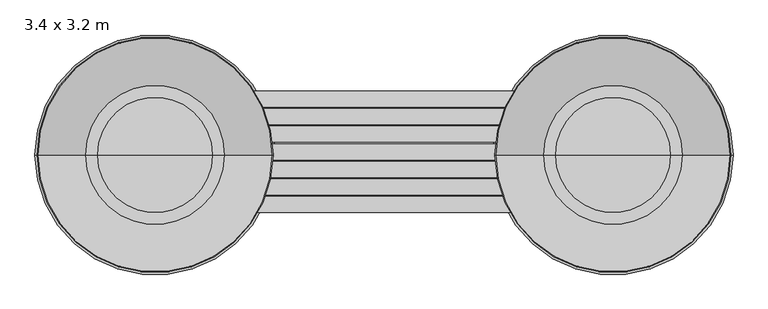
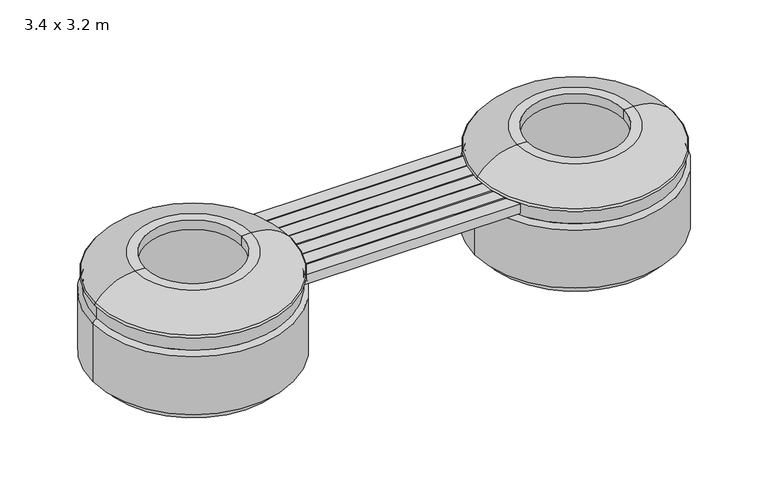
"""IFC4 building model written with IfcOpenShell, lengths in millimetres: geographic element geometry, Puesto de flores con banco - 2 piezas : 3.4 x 3.2 m."""

from ifc_helpers import new_model, si_unit, point, frame, frame_2d, origin, place, context, project, spatial, polyline, circle_curve, ellipse_curve, trimmed, segment, composite_curve, outline, extrude, source, transform, mapped, element, save
from ifc_brep_helpers import plane_surface, cylinder_surface, revolved_surface, advanced_brep


def geographic_element_3_4_x_3_2_m_97ed3e57(model_context):
    return source(origin(), model_context, "Body", "SolidModel", [
        extrude(outline(composite_curve([segment(polyline([(604.8352385, -201.2975588), (-604.8352385, -201.2975588)]), True, "CONTINUOUS"), segment(trimmed(circle_curve(frame_2d((-1143.448544, 0.0)), 575.0), [point((-604.8352385, -201.2975588))], [point((-581.388136, -121.2975588))], True, "CARTESIAN"), True, "CONTINUOUS"), segment(polyline([(-581.388136, -121.2975588), (581.388136, -121.2975588)]), True, "CONTINUOUS"), segment(trimmed(circle_curve(frame_2d((1143.448544, 0.0)), 575.0), [point((581.388136, -121.2975588))], [point((604.8352385, -201.2975588))], True, "CARTESIAN"), True, "CONTINUOUS")], self_intersect=False)), frame((0.0, 0.0, 463.492112), z_axis=(0.0, 0.0, 1.0), x_axis=(1.0, 0.0, 0.0)), (0.0, 0.0, 1.0), 60.0),
        extrude(outline(composite_curve([segment(polyline([(579.7210716, -113.2975588), (-579.7210716, -113.2975588)]), True, "CONTINUOUS"), segment(trimmed(circle_curve(frame_2d((-1143.448544, 0.0)), 575.0), [point((-579.7210716, -113.2975588))], [point((-569.4134644, -33.2975588))], True, "CARTESIAN"), True, "CONTINUOUS"), segment(polyline([(-569.4134644, -33.2975588), (569.4134644, -33.2975588)]), True, "CONTINUOUS"), segment(trimmed(circle_curve(frame_2d((1143.448544, 0.0)), 575.0), [point((569.4134644, -33.2975588))], [point((579.7210716, -113.2975588))], True, "CARTESIAN"), True, "CONTINUOUS")], self_intersect=False)), frame((0.0, 0.0, 463.492112), z_axis=(0.0, 0.0, 1.0), x_axis=(1.0, 0.0, 0.0)), (0.0, 0.0, 1.0), 60.0),
        extrude(outline(composite_curve([segment(polyline([(569.0053061, -25.2975588), (-569.0053061, -25.2975588)]), True, "CONTINUOUS"), segment(trimmed(circle_curve(frame_2d((-1143.448544, 0.0)), 575.0), [point((-569.0053061, -25.2975588))], [point((-571.0565079, 54.7024412))], True, "CARTESIAN"), True, "CONTINUOUS"), segment(polyline([(-571.0565079, 54.7024412), (571.0565079, 54.7024412)]), True, "CONTINUOUS"), segment(trimmed(circle_curve(frame_2d((1143.448544, 0.0)), 575.0), [point((571.0565079, 54.7024412))], [point((569.0053061, -25.2975588))], True, "CARTESIAN"), True, "CONTINUOUS")], self_intersect=False)), frame((0.0, 0.0, 463.492112), z_axis=(0.0, 0.0, 1.0), x_axis=(1.0, 0.0, 0.0)), (0.0, 0.0, 1.0), 60.0),
        extrude(outline(composite_curve([segment(polyline([(571.8775476, 62.7024412), (-571.8775476, 62.7024412)]), True, "CONTINUOUS"), segment(trimmed(circle_curve(frame_2d((-1143.448544, 0.0)), 575.0), [point((-571.8775476, 62.7024412))], [point((-586.4377602, 142.7024412))], True, "CARTESIAN"), True, "CONTINUOUS"), segment(polyline([(-586.4377602, 142.7024412), (586.4377602, 142.7024412)]), True, "CONTINUOUS"), segment(trimmed(circle_curve(frame_2d((1143.448544, 0.0)), 575.0), [point((586.4377602, 142.7024412))], [point((571.8775476, 62.7024412))], True, "CARTESIAN"), True, "CONTINUOUS")], self_intersect=False)), frame((0.0, 0.0, 463.492112), z_axis=(0.0, 0.0, 1.0), x_axis=(1.0, 0.0, 0.0)), (0.0, 0.0, 1.0), 60.0),
        extrude(outline(composite_curve([segment(polyline([(588.5487565, 150.7024412), (-588.5487565, 150.7024412)]), True, "CONTINUOUS"), segment(trimmed(circle_curve(frame_2d((-1143.448544, 0.0)), 575.0), [point((-588.5487565, 150.7024412))], [point((-616.7594672, 230.7024412))], True, "CARTESIAN"), True, "CONTINUOUS"), segment(polyline([(-616.7594672, 230.7024412), (616.7594672, 230.7024412)]), True, "CONTINUOUS"), segment(trimmed(circle_curve(frame_2d((1143.448544, 0.0)), 575.0), [point((616.7594672, 230.7024412))], [point((588.5487565, 150.7024412))], True, "CARTESIAN"), True, "CONTINUOUS")], self_intersect=False)), frame((0.0, 0.0, 463.492112), z_axis=(0.0, 0.0, 1.0), x_axis=(1.0, 0.0, 0.0)), (0.0, 0.0, 1.0), 60.0),
        extrude(outline(composite_curve([segment(trimmed(circle_curve(frame_2d((1130.0890983, 30.1907322)), 575.0), [point((607.336424, -209.2975588))], [point((652.0177314, -289.2975588))], True, "CARTESIAN"), True, "CONTINUOUS"), segment(polyline([(652.0177314, -289.2975588), (-649.2775855, -289.2975588)]), True, "CONTINUOUS"), segment(trimmed(circle_curve(frame_2d((-1126.9550706, 30.7793386)), 575.0), [point((-649.2775855, -289.2975588))], [point((-604.4724553, -209.2975588))], True, "CARTESIAN"), True, "CONTINUOUS"), segment(polyline([(-604.4724553, -209.2975588), (607.336424, -209.2975588)]), True, "CONTINUOUS")], self_intersect=False)), frame((0.0, 0.0, 463.492112), z_axis=(0.0, 0.0, 1.0), x_axis=(1.0, 0.0, 0.0)), (0.0, 0.0, 1.0), 60.0),
        extrude(outline(composite_curve([segment(polyline([(619.3123514, 238.7024412), (-620.4754617, 238.7024412)]), True, "CONTINUOUS"), segment(trimmed(circle_curve(frame_2d((-1144.4332052, 1.8622355)), 575.0), [point((-620.4754617, 238.7024412))], [point((-664.6027309, 318.7024412))], True, "CARTESIAN"), True, "CONTINUOUS"), segment(polyline([(-664.6027309, 318.7024412), (663.6815463, 318.7024412)]), True, "CONTINUOUS"), segment(trimmed(circle_curve(frame_2d((1142.7445624, 0.7030284)), 575.0), [point((663.6815463, 318.7024412))], [point((619.3123514, 238.7024412))], True, "CARTESIAN"), True, "CONTINUOUS")], self_intersect=False)), frame((0.0, 0.0, 463.492112), z_axis=(0.0, 0.0, 1.0), x_axis=(1.0, 0.0, 0.0)), (0.0, 0.0, 1.0), 60.0),
        advanced_brep(
        [(-543.448544, 0.0, 425.0), (-543.448544, 0.0, 60.0), (-1743.448544, 0.0, 60.0), (-1743.448544, 0.0, 425.0), (-568.448544, 0.0, 450.0), (-1718.448544, 0.0, 450.0), (-568.448544, 0.0, 530.0), (-1718.448544, 0.0, 530.0), (-557.1191834, 0.0, 552.6065073), (-1729.7779046, 0.0, 552.6065073), (-794.6098655, 0.0, 670.0), (-1492.2872224, 0.0, 670.0), (-854.6098655, 0.0, 670.0), (-1432.2872224, 0.0, 670.0), (-854.6098655, 0.0, 610.0), (-1432.2872224, 0.0, 610.0), (-674.3964158, 0.0, 483.813184), (-1612.5006722, 0.0, 483.813184), (-674.3964158, 0.0, 109.5499123), (-1612.5006722, 0.0, 109.5499123), (-1143.448544, 0.0, 109.5499123), (-600.0, 0.0, 0.0), (-1143.448544, 0.0, 0.0), (-1686.897088, 0.0, 0.0), (-600.0, 0.0, 60.0), (-1686.897088, 0.0, 60.0)],
        [
            (0, 1),
            (1, 2, circle_curve(frame((-1143.448544, 0.0, 60.0), z_axis=(0.0, 0.0, 1.0), x_axis=(-1.0, 0.0, 0.0)), 600.0)),
            (2, 3),
            (3, 0, circle_curve(frame((-1143.448544, 0.0, 425.0), z_axis=(0.0, 0.0, -1.0), x_axis=(-1.0, 0.0, 0.0)), 600.0)),
            (2, 1, circle_curve(frame((-1143.448544, 0.0, 60.0), z_axis=(0.0, 0.0, 1.0), x_axis=(-1.0, 0.0, 0.0)), 600.0)),
            (0, 3, circle_curve(frame((-1143.448544, 0.0, 425.0), z_axis=(0.0, 0.0, -1.0), x_axis=(-1.0, 0.0, 0.0)), 600.0)),
            (4, 0, circle_curve(frame((-568.448544, 0.0, 425.0), z_axis=(0.0, 1.0, 0.0), x_axis=(-1.0, 0.0, 0.0)), 25.0)),
            (3, 5, circle_curve(frame((-1718.448544, 0.0, 425.0), z_axis=(0.0, 1.0, 0.0), x_axis=(1.0, 0.0, 0.0)), 25.0)),
            (5, 4, circle_curve(frame((-1143.448544, 0.0, 450.0), z_axis=(0.0, 0.0, -1.0), x_axis=(-1.0, 0.0, 0.0)), 575.0)),
            (4, 5, circle_curve(frame((-1143.448544, 0.0, 450.0), z_axis=(0.0, 0.0, -1.0), x_axis=(-1.0, 0.0, 0.0)), 575.0)),
            (6, 4),
            (5, 7),
            (7, 6, circle_curve(frame((-1143.448544, 0.0, 530.0), z_axis=(0.0, 0.0, -1.0), x_axis=(-1.0, 0.0, 0.0)), 575.0)),
            (6, 7, circle_curve(frame((-1143.448544, 0.0, 530.0), z_axis=(0.0, 0.0, -1.0), x_axis=(-1.0, 0.0, 0.0)), 575.0)),
            (8, 6, circle_curve(frame((-568.448544, 0.0, 544.1421356), z_axis=(0.0, 1.0, 0.0), x_axis=(-1.0, 0.0, 0.0)), 14.1421356)),
            (7, 9, circle_curve(frame((-1718.448544, 0.0, 544.1421356), z_axis=(0.0, 1.0, 0.0), x_axis=(1.0, 0.0, 0.0)), 14.1421356)),
            (9, 8, circle_curve(frame((-1143.448544, 0.0, 552.6065073), z_axis=(0.0, 0.0, -1.0), x_axis=(-1.0, 0.0, 0.0)), 586.3293606)),
            (8, 9, circle_curve(frame((-1143.448544, 0.0, 552.6065073), z_axis=(0.0, 0.0, -1.0), x_axis=(-1.0, 0.0, 0.0)), 586.3293606)),
            (10, 8, circle_curve(frame((-791.4002786, 0.0, 377.5708342), z_axis=(0.0, 1.0, 0.0), x_axis=(-1.0, 0.0, 0.0)), 292.4467789)),
            (9, 11, circle_curve(frame((-1495.4968093, 0.0, 377.5708342), z_axis=(0.0, 1.0, 0.0), x_axis=(1.0, 0.0, 0.0)), 292.4467789)),
            (11, 10, circle_curve(frame((-1143.448544, 0.0, 670.0), z_axis=(0.0, 0.0, -1.0), x_axis=(-1.0, 0.0, 0.0)), 348.8386785)),
            (10, 11, circle_curve(frame((-1143.448544, 0.0, 670.0), z_axis=(0.0, 0.0, -1.0), x_axis=(-1.0, 0.0, 0.0)), 348.8386785)),
            (12, 10),
            (11, 13),
            (13, 12, circle_curve(frame((-1143.448544, 0.0, 670.0), z_axis=(0.0, 0.0, -1.0), x_axis=(-1.0, 0.0, 0.0)), 288.8386785)),
            (12, 13, circle_curve(frame((-1143.448544, 0.0, 670.0), z_axis=(0.0, 0.0, -1.0), x_axis=(-1.0, 0.0, 0.0)), 288.8386785)),
            (14, 12),
            (13, 15),
            (15, 14, circle_curve(frame((-1143.448544, 0.0, 610.0), z_axis=(0.0, 0.0, -1.0), x_axis=(-1.0, 0.0, 0.0)), 288.8386785)),
            (14, 15, circle_curve(frame((-1143.448544, 0.0, 610.0), z_axis=(0.0, 0.0, -1.0), x_axis=(-1.0, 0.0, 0.0)), 288.8386785)),
            (16, 14),
            (15, 17),
            (17, 16, circle_curve(frame((-1143.448544, 0.0, 483.813184), z_axis=(0.0, 0.0, -1.0), x_axis=(-1.0, 0.0, 0.0)), 469.0521282)),
            (16, 17, circle_curve(frame((-1143.448544, 0.0, 483.813184), z_axis=(0.0, 0.0, -1.0), x_axis=(-1.0, 0.0, 0.0)), 469.0521282)),
            (18, 16),
            (17, 19),
            (19, 18, circle_curve(frame((-1143.448544, 0.0, 109.5499123), z_axis=(0.0, 0.0, -1.0), x_axis=(-1.0, 0.0, 0.0)), 469.0521282)),
            (18, 19, circle_curve(frame((-1143.448544, 0.0, 109.5499123), z_axis=(0.0, 0.0, -1.0), x_axis=(-1.0, 0.0, 0.0)), 469.0521282)),
            (20, 18),
            (19, 20),
            (21, 22),
            (22, 23),
            (23, 21, circle_curve(frame((-1143.448544, 0.0, 0.0), z_axis=(0.0, 0.0, -1.0), x_axis=(-1.0, 0.0, 0.0)), 543.448544)),
            (21, 23, circle_curve(frame((-1143.448544, 0.0, 0.0), z_axis=(0.0, 0.0, -1.0), x_axis=(-1.0, 0.0, 0.0)), 543.448544)),
            (24, 21),
            (23, 25),
            (25, 24, circle_curve(frame((-1143.448544, 0.0, 60.0), z_axis=(0.0, 0.0, -1.0), x_axis=(-1.0, 0.0, 0.0)), 543.448544)),
            (24, 25, circle_curve(frame((-1143.448544, 0.0, 60.0), z_axis=(0.0, 0.0, -1.0), x_axis=(-1.0, 0.0, 0.0)), 543.448544)),
            (1, 24),
            (25, 2),
        ],
        [
            cylinder_surface(frame((-1143.448544, 0.0, -140.0), z_axis=(0.0, 0.0, 1.0), x_axis=(-1.0, 0.0, 0.0)), 600.0),
            revolved_surface(trimmed(ellipse_curve(frame((-1718.448544, 0.0, 425.0), z_axis=(0.0, 1.0, 0.0), x_axis=(1.0, 0.0, 0.0)), 25.0, 25.0), [point((-1743.448544, 0.0, 425.0))], [point((-1718.448544, 0.0, 450.0))], True, "CARTESIAN"), (-1143.448544, 0.0, -140.0), (0.0, 0.0, 1.0)),
            cylinder_surface(frame((-1143.448544, 0.0, -140.0), z_axis=(0.0, 0.0, 1.0), x_axis=(-1.0, 0.0, 0.0)), 575.0),
            revolved_surface(trimmed(ellipse_curve(frame((-1718.448544, 0.0, 544.1421356), z_axis=(0.0, 1.0, 0.0), x_axis=(1.0, 0.0, 0.0)), 14.1421356, 14.1421356), [point((-1718.448544, 0.0, 530.0))], [point((-1729.7779046, 0.0, 552.6065073))], True, "CARTESIAN"), (-1143.448544, 0.0, -140.0), (0.0, 0.0, 1.0)),
            revolved_surface(trimmed(ellipse_curve(frame((-1495.4968093, 0.0, 377.5708342), z_axis=(0.0, 1.0, 0.0), x_axis=(1.0, 0.0, 0.0)), 292.4467789, 292.4467789), [point((-1729.7779046, 0.0, 552.6065073))], [point((-1492.2872224, 0.0, 670.0))], True, "CARTESIAN"), (-1143.448544, 0.0, -140.0), (0.0, 0.0, 1.0)),
            plane_surface(frame((-1143.448544, 0.0, 670.0), z_axis=(0.0, 0.0, 1.0), x_axis=(-1.0, 0.0, 0.0))),
            revolved_surface(polyline([(-1432.2872225, 0.0, 670.0), (-1432.2872225, 0.0, 610.0)]), (-1143.448544, 0.0, -140.0), (0.0, 0.0, 1.0)),
            revolved_surface(polyline([(-1432.2872224, 0.0, 610.0), (-1612.5006722, 0.0, 483.813184)]), (-1143.448544, 0.0, -140.0), (0.0, 0.0, 1.0)),
            revolved_surface(polyline([(-1612.5006722, 0.0, 483.813184), (-1612.5006722, 0.0, 109.54991230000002)]), (-1143.448544, 0.0, -140.0), (0.0, 0.0, 1.0)),
            plane_surface(frame((-1143.448544, 0.0, 109.5499123), z_axis=(0.0, 0.0, 1.0), x_axis=(-1.0, 0.0, 0.0))),
            plane_surface(frame((-1143.448544, 0.0, 0.0), z_axis=(0.0, 0.0, -1.0), x_axis=(-1.0, 0.0, 0.0))),
            cylinder_surface(frame((-1143.448544, 0.0, -140.0), z_axis=(0.0, 0.0, 1.0), x_axis=(-1.0, 0.0, 0.0)), 543.448544),
            plane_surface(frame((-1143.448544, 0.0, 60.0), z_axis=(0.0, 0.0, -1.0), x_axis=(-1.0, 0.0, 0.0))),
        ],
        [
            (0, [[1, 2, 3, 4]]),
            (0, [[-3, 5, -1, 6]]),
            (1, [[7, -4, 8, 9]]),
            (1, [[-8, -6, -7, 10]]),
            (2, [[11, -9, 12, 13]]),
            (2, [[-12, -10, -11, 14]]),
            (3, [[15, -13, 16, 17]]),
            (3, [[-16, -14, -15, 18]]),
            (4, [[19, -17, 20, 21]]),
            (4, [[-20, -18, -19, 22]]),
            (5, [[23, -21, 24, 25]]),
            (5, [[-24, -22, -23, 26]]),
            (6, [[27, -25, 28, 29]]),
            (6, [[-28, -26, -27, 30]]),
            (7, [[31, -29, 32, 33]]),
            (7, [[-32, -30, -31, 34]]),
            (8, [[35, -33, 36, 37]]),
            (8, [[-36, -34, -35, 38]]),
            (9, [[39, -37, 40]]),
            (9, [[-40, -38, -39]]),
            (10, [[41, 42, 43]]),
            (10, [[-42, -41, 44]]),
            (11, [[45, -43, 46, 47]]),
            (11, [[-46, -44, -45, 48]]),
            (12, [[49, -47, 50, -2]]),
            (12, [[-50, -48, -49, -5]]),
        ],
    ),
        advanced_brep(
        [(1743.448544, 0.0, 425.0), (1743.448544, 0.0, 60.0), (543.448544, 0.0, 60.0), (543.448544, 0.0, 425.0), (1718.448544, 0.0, 450.0), (568.448544, 0.0, 450.0), (1718.448544, 0.0, 530.0), (568.448544, 0.0, 530.0), (1729.7779046, 0.0, 552.6065073), (557.1191834, 0.0, 552.6065073), (1492.2872224, 0.0, 670.0), (794.6098655, 0.0, 670.0), (1432.2872224, 0.0, 670.0), (854.6098655, 0.0, 670.0), (1432.2872224, 0.0, 610.0), (854.6098655, 0.0, 610.0), (1612.5006722, 0.0, 483.813184), (674.3964158, 0.0, 483.813184), (1612.5006722, 0.0, 109.5499123), (674.3964158, 0.0, 109.5499123), (1143.448544, 0.0, 109.5499123), (1686.897088, 0.0, 0.0), (1143.448544, 0.0, 0.0), (600.0, 0.0, 0.0), (1686.897088, 0.0, 60.0), (600.0, 0.0, 60.0)],
        [
            (0, 1),
            (1, 2, circle_curve(frame((1143.448544, 0.0, 60.0), z_axis=(0.0, 0.0, 1.0), x_axis=(-1.0, 0.0, 0.0)), 600.0)),
            (2, 3),
            (3, 0, circle_curve(frame((1143.448544, 0.0, 425.0), z_axis=(0.0, 0.0, -1.0), x_axis=(-1.0, 0.0, 0.0)), 600.0)),
            (2, 1, circle_curve(frame((1143.448544, 0.0, 60.0), z_axis=(0.0, 0.0, 1.0), x_axis=(-1.0, 0.0, 0.0)), 600.0)),
            (0, 3, circle_curve(frame((1143.448544, 0.0, 425.0), z_axis=(0.0, 0.0, -1.0), x_axis=(-1.0, 0.0, 0.0)), 600.0)),
            (4, 0, circle_curve(frame((1718.448544, 0.0, 425.0), z_axis=(0.0, 1.0, 0.0), x_axis=(-1.0, 0.0, 0.0)), 25.0)),
            (3, 5, circle_curve(frame((568.448544, 0.0, 425.0), z_axis=(0.0, 1.0, 0.0), x_axis=(1.0, 0.0, 0.0)), 25.0)),
            (5, 4, circle_curve(frame((1143.448544, 0.0, 450.0), z_axis=(0.0, 0.0, -1.0), x_axis=(-1.0, 0.0, 0.0)), 575.0)),
            (4, 5, circle_curve(frame((1143.448544, 0.0, 450.0), z_axis=(0.0, 0.0, -1.0), x_axis=(-1.0, 0.0, 0.0)), 575.0)),
            (6, 4),
            (5, 7),
            (7, 6, circle_curve(frame((1143.448544, 0.0, 530.0), z_axis=(0.0, 0.0, -1.0), x_axis=(-1.0, 0.0, 0.0)), 575.0)),
            (6, 7, circle_curve(frame((1143.448544, 0.0, 530.0), z_axis=(0.0, 0.0, -1.0), x_axis=(-1.0, 0.0, 0.0)), 575.0)),
            (8, 6, circle_curve(frame((1718.448544, 0.0, 544.1421356), z_axis=(0.0, 1.0, 0.0), x_axis=(-1.0, 0.0, 0.0)), 14.1421356)),
            (7, 9, circle_curve(frame((568.448544, 0.0, 544.1421356), z_axis=(0.0, 1.0, 0.0), x_axis=(1.0, 0.0, 0.0)), 14.1421356)),
            (9, 8, circle_curve(frame((1143.448544, 0.0, 552.6065073), z_axis=(0.0, 0.0, -1.0), x_axis=(-1.0, 0.0, 0.0)), 586.3293606)),
            (8, 9, circle_curve(frame((1143.448544, 0.0, 552.6065073), z_axis=(0.0, 0.0, -1.0), x_axis=(-1.0, 0.0, 0.0)), 586.3293606)),
            (10, 8, circle_curve(frame((1495.4968093, 0.0, 377.5708342), z_axis=(0.0, 1.0, 0.0), x_axis=(-1.0, 0.0, 0.0)), 292.4467789)),
            (9, 11, circle_curve(frame((791.4002786, 0.0, 377.5708342), z_axis=(0.0, 1.0, 0.0), x_axis=(1.0, 0.0, 0.0)), 292.4467789)),
            (11, 10, circle_curve(frame((1143.448544, 0.0, 670.0), z_axis=(0.0, 0.0, -1.0), x_axis=(-1.0, 0.0, 0.0)), 348.8386785)),
            (10, 11, circle_curve(frame((1143.448544, 0.0, 670.0), z_axis=(0.0, 0.0, -1.0), x_axis=(-1.0, 0.0, 0.0)), 348.8386785)),
            (12, 10),
            (11, 13),
            (13, 12, circle_curve(frame((1143.448544, 0.0, 670.0), z_axis=(0.0, 0.0, -1.0), x_axis=(-1.0, 0.0, 0.0)), 288.8386785)),
            (12, 13, circle_curve(frame((1143.448544, 0.0, 670.0), z_axis=(0.0, 0.0, -1.0), x_axis=(-1.0, 0.0, 0.0)), 288.8386785)),
            (14, 12),
            (13, 15),
            (15, 14, circle_curve(frame((1143.448544, 0.0, 610.0), z_axis=(0.0, 0.0, -1.0), x_axis=(-1.0, 0.0, 0.0)), 288.8386785)),
            (14, 15, circle_curve(frame((1143.448544, 0.0, 610.0), z_axis=(0.0, 0.0, -1.0), x_axis=(-1.0, 0.0, 0.0)), 288.8386785)),
            (16, 14),
            (15, 17),
            (17, 16, circle_curve(frame((1143.448544, 0.0, 483.813184), z_axis=(0.0, 0.0, -1.0), x_axis=(-1.0, 0.0, 0.0)), 469.0521282)),
            (16, 17, circle_curve(frame((1143.448544, 0.0, 483.813184), z_axis=(0.0, 0.0, -1.0), x_axis=(-1.0, 0.0, 0.0)), 469.0521282)),
            (18, 16),
            (17, 19),
            (19, 18, circle_curve(frame((1143.448544, 0.0, 109.5499123), z_axis=(0.0, 0.0, -1.0), x_axis=(-1.0, 0.0, 0.0)), 469.0521282)),
            (18, 19, circle_curve(frame((1143.448544, 0.0, 109.5499123), z_axis=(0.0, 0.0, -1.0), x_axis=(-1.0, 0.0, 0.0)), 469.0521282)),
            (20, 18),
            (19, 20),
            (21, 22),
            (22, 23),
            (23, 21, circle_curve(frame((1143.448544, 0.0, 0.0), z_axis=(0.0, 0.0, -1.0), x_axis=(-1.0, 0.0, 0.0)), 543.448544)),
            (21, 23, circle_curve(frame((1143.448544, 0.0, 0.0), z_axis=(0.0, 0.0, -1.0), x_axis=(-1.0, 0.0, 0.0)), 543.448544)),
            (24, 21),
            (23, 25),
            (25, 24, circle_curve(frame((1143.448544, 0.0, 60.0), z_axis=(0.0, 0.0, -1.0), x_axis=(-1.0, 0.0, 0.0)), 543.448544)),
            (24, 25, circle_curve(frame((1143.448544, 0.0, 60.0), z_axis=(0.0, 0.0, -1.0), x_axis=(-1.0, 0.0, 0.0)), 543.448544)),
            (1, 24),
            (25, 2),
        ],
        [
            cylinder_surface(frame((1143.448544, 0.0, -140.0), z_axis=(0.0, 0.0, 1.0), x_axis=(-1.0, 0.0, 0.0)), 600.0),
            revolved_surface(trimmed(ellipse_curve(frame((568.448544, 0.0, 425.0), z_axis=(0.0, 1.0, 0.0), x_axis=(1.0, 0.0, 0.0)), 25.0, 25.0), [point((543.448544, 0.0, 425.0))], [point((568.448544, 0.0, 450.0))], True, "CARTESIAN"), (1143.448544, 0.0, -140.0), (0.0, 0.0, 1.0)),
            cylinder_surface(frame((1143.448544, 0.0, -140.0), z_axis=(0.0, 0.0, 1.0), x_axis=(-1.0, 0.0, 0.0)), 575.0),
            revolved_surface(trimmed(ellipse_curve(frame((568.448544, 0.0, 544.1421356), z_axis=(0.0, 1.0, 0.0), x_axis=(1.0, 0.0, 0.0)), 14.1421356, 14.1421356), [point((568.448544, 0.0, 530.0))], [point((557.1191834, 0.0, 552.6065073))], True, "CARTESIAN"), (1143.448544, 0.0, -140.0), (0.0, 0.0, 1.0)),
            revolved_surface(trimmed(ellipse_curve(frame((791.4002786, 0.0, 377.5708342), z_axis=(0.0, 1.0, 0.0), x_axis=(1.0, 0.0, 0.0)), 292.4467789, 292.4467789), [point((557.1191834, 0.0, 552.6065073))], [point((794.6098655, 0.0, 670.0))], True, "CARTESIAN"), (1143.448544, 0.0, -140.0), (0.0, 0.0, 1.0)),
            plane_surface(frame((1143.448544, 0.0, 670.0), z_axis=(0.0, 0.0, 1.0), x_axis=(-1.0, 0.0, 0.0))),
            revolved_surface(polyline([(854.6098655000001, 0.0, 670.0), (854.6098655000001, 0.0, 610.0)]), (1143.448544, 0.0, -140.0), (0.0, 0.0, 1.0)),
            revolved_surface(polyline([(854.6098655, 0.0, 610.0), (674.3964158, 0.0, 483.813184)]), (1143.448544, 0.0, -140.0), (0.0, 0.0, 1.0)),
            revolved_surface(polyline([(674.3964158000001, 0.0, 483.813184), (674.3964158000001, 0.0, 109.54991230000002)]), (1143.448544, 0.0, -140.0), (0.0, 0.0, 1.0)),
            plane_surface(frame((1143.448544, 0.0, 109.5499123), z_axis=(0.0, 0.0, 1.0), x_axis=(-1.0, 0.0, 0.0))),
            plane_surface(frame((1143.448544, 0.0, 0.0), z_axis=(0.0, 0.0, -1.0), x_axis=(-1.0, 0.0, 0.0))),
            cylinder_surface(frame((1143.448544, 0.0, -140.0), z_axis=(0.0, 0.0, 1.0), x_axis=(-1.0, 0.0, 0.0)), 543.448544),
            plane_surface(frame((1143.448544, 0.0, 60.0), z_axis=(0.0, 0.0, -1.0), x_axis=(-1.0, 0.0, 0.0))),
        ],
        [
            (0, [[1, 2, 3, 4]]),
            (0, [[-3, 5, -1, 6]]),
            (1, [[7, -4, 8, 9]]),
            (1, [[-8, -6, -7, 10]]),
            (2, [[11, -9, 12, 13]]),
            (2, [[-12, -10, -11, 14]]),
            (3, [[15, -13, 16, 17]]),
            (3, [[-16, -14, -15, 18]]),
            (4, [[19, -17, 20, 21]]),
            (4, [[-20, -18, -19, 22]]),
            (5, [[23, -21, 24, 25]]),
            (5, [[-24, -22, -23, 26]]),
            (6, [[27, -25, 28, 29]]),
            (6, [[-28, -26, -27, 30]]),
            (7, [[31, -29, 32, 33]]),
            (7, [[-32, -30, -31, 34]]),
            (8, [[35, -33, 36, 37]]),
            (8, [[-36, -34, -35, 38]]),
            (9, [[39, -37, 40]]),
            (9, [[-40, -38, -39]]),
            (10, [[41, 42, 43]]),
            (10, [[-42, -41, 44]]),
            (11, [[45, -43, 46, 47]]),
            (11, [[-46, -44, -45, 48]]),
            (12, [[49, -47, 50, -2]]),
            (12, [[-50, -48, -49, -5]]),
        ],
    ),
    ])


if __name__ == "__main__":
    model = new_model("IFC4")
    model_context = context("Model", 3, world=origin())
    ifc_project = project(units=[si_unit("LENGTHUNIT", "METRE", prefix="MILLI")], contexts=[model_context])
    site = spatial("IfcSite", under=ifc_project)
    building = spatial("IfcBuilding", under=site)
    placement = place(None, origin())
    geographic_element_3_4_x_3_2_m_shape = geographic_element_3_4_x_3_2_m_97ed3e57(model_context)
    element("IfcGeographicElement", 1, ObjectType="Puesto de flores con banco - 2 piezas : 3.4 x 3.2 m", at=placement, inside=building, context=model_context, shape_type="MappedRepresentation", body=[
        mapped(geographic_element_3_4_x_3_2_m_shape, transform((0.0, 0.0, 0.0), x_axis=(1.0, 0.0, 0.0), y_axis=(0.0, 1.0, 0.0), z_axis=(0.0, 0.0, 1.0))),
    ])
    save(model, "model.ifc")
